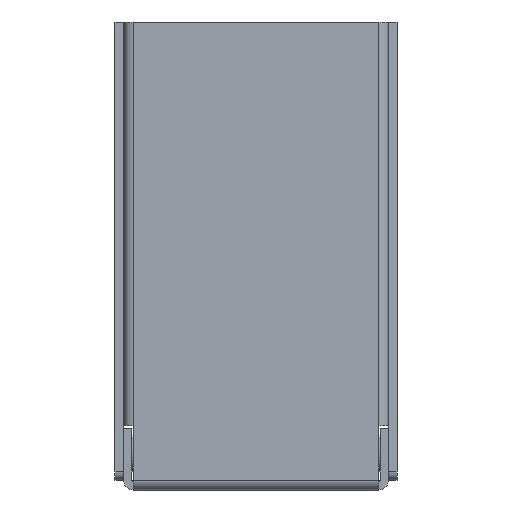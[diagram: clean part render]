
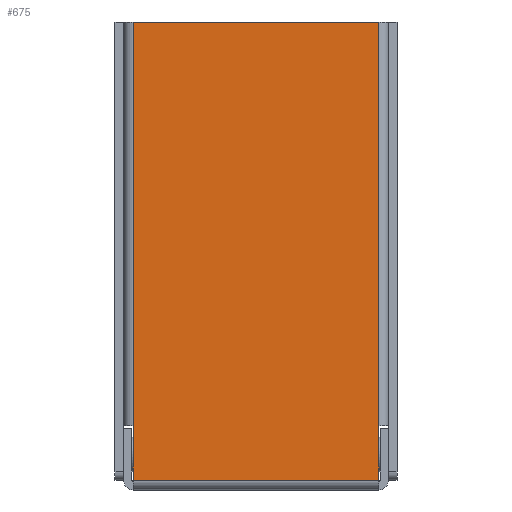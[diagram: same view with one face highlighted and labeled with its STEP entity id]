
A CAD part, left-side view. The second image highlights one B-rep face of the part: STEP entity #675.
In plain terms, the highlighted planar face has unit normal (-1, 0, 0).
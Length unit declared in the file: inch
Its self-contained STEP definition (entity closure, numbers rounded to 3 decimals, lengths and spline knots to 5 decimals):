
#601=CARTESIAN_POINT('',(-0.06,-1.74472,0.455));
#602=VERTEX_POINT('',#601);
#611=CARTESIAN_POINT('',(-0.06,-1.74472,3.31));
#612=VERTEX_POINT('',#611);
#620=CARTESIAN_POINT('',(-0.06,-1.74472,0.455));
#621=DIRECTION('',(0.0,0.0,1.0));
#622=VECTOR('',#621,2.855);
#623=LINE('',#620,#622);
#624=EDGE_CURVE('',#602,#612,#623,.T.);
#629=CARTESIAN_POINT('',(-0.06,-0.87736,1.685));
#630=DIRECTION('',(1.0,0.0,0.0));
#631=DIRECTION('',(0.0,0.0,-1.0));
#632=AXIS2_PLACEMENT_3D('',#629,#630,#631);
#633=PLANE('',#632);
#634=CARTESIAN_POINT('',(-0.06,-1.74472,0.07));
#635=VERTEX_POINT('',#634);
#636=CARTESIAN_POINT('',(-0.06,-1.74472,0.07));
#637=DIRECTION('',(0.0,0.0,1.0));
#638=VECTOR('',#637,0.385);
#639=LINE('',#636,#638);
#640=EDGE_CURVE('',#635,#602,#639,.T.);
#641=ORIENTED_EDGE('',*,*,#640,.T.);
#642=ORIENTED_EDGE('',*,*,#624,.T.);
#643=CARTESIAN_POINT('',(-0.06,-0.01,3.31));
#644=VERTEX_POINT('',#643);
#645=CARTESIAN_POINT('',(-0.06,-0.01,3.31));
#646=DIRECTION('',(0.0,-1.0,0.0));
#647=VECTOR('',#646,1.73472);
#648=LINE('',#645,#647);
#649=EDGE_CURVE('',#644,#612,#648,.T.);
#650=ORIENTED_EDGE('',*,*,#649,.F.);
#651=CARTESIAN_POINT('',(-0.06,-0.01,0.455));
#652=VERTEX_POINT('',#651);
#653=CARTESIAN_POINT('',(-0.06,-0.01,3.31));
#654=DIRECTION('',(0.0,0.0,-1.0));
#655=VECTOR('',#654,2.855);
#656=LINE('',#653,#655);
#657=EDGE_CURVE('',#644,#652,#656,.T.);
#658=ORIENTED_EDGE('',*,*,#657,.T.);
#659=CARTESIAN_POINT('',(-0.06,-0.01,0.07));
#660=VERTEX_POINT('',#659);
#661=CARTESIAN_POINT('',(-0.06,-0.01,0.07));
#662=DIRECTION('',(0.0,0.0,1.0));
#663=VECTOR('',#662,0.385);
#664=LINE('',#661,#663);
#665=EDGE_CURVE('',#660,#652,#664,.T.);
#666=ORIENTED_EDGE('',*,*,#665,.F.);
#667=CARTESIAN_POINT('',(-0.06,-1.74472,0.07));
#668=DIRECTION('',(0.0,1.0,0.0));
#669=VECTOR('',#668,1.73472);
#670=LINE('',#667,#669);
#671=EDGE_CURVE('',#635,#660,#670,.T.);
#672=ORIENTED_EDGE('',*,*,#671,.F.);
#673=EDGE_LOOP('',(#641,#642,#650,#658,#666,#672));
#674=FACE_OUTER_BOUND('',#673,.T.);
#675=ADVANCED_FACE('',(#674),#633,.F.);
